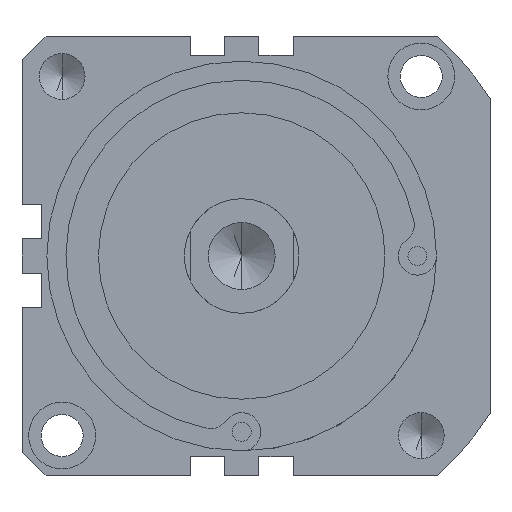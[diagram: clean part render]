
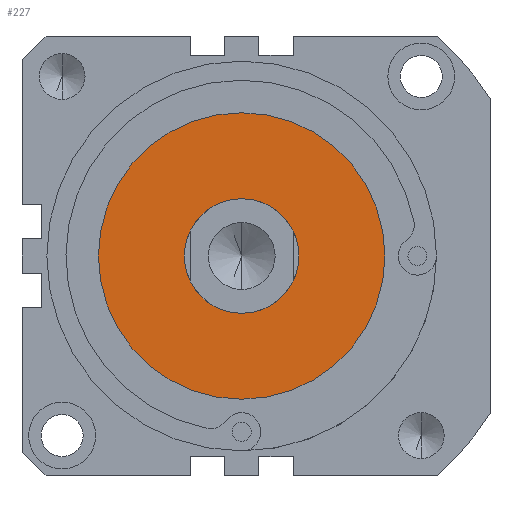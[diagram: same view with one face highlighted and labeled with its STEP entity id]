
A CAD part, front view. The second image highlights one B-rep face of the part: STEP entity #227.
In plain terms, the highlighted planar face has unit normal (0, -1, 0).
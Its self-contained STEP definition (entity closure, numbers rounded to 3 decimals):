
#32 = CARTESIAN_POINT ( 'NONE',  ( 0., -93., -37.5 ) ) ;
#60 = CARTESIAN_POINT ( 'NONE',  ( 0., -93., 0. ) ) ;
#165 = CARTESIAN_POINT ( 'NONE',  ( 0., -93., 0. ) ) ;
#177 = CARTESIAN_POINT ( 'NONE',  ( 0., -93., 15. ) ) ;
#227 = ADVANCED_FACE ( 'NONE', ( #819, #2029 ), #3943, .F. ) ;
#291 = ORIENTED_EDGE ( 'NONE', *, *, #3045, .F. ) ;
#329 = EDGE_CURVE ( 'NONE', #702, #2032, #2330, .T. ) ;
#366 = VERTEX_POINT ( 'NONE', #177 ) ;
#476 = DIRECTION ( 'NONE',  ( 0., 1., 0. ) ) ;
#478 = AXIS2_PLACEMENT_3D ( 'NONE', #165, #4081, #3738 ) ;
#486 = CARTESIAN_POINT ( 'NONE',  ( 0., -93., 0. ) ) ;
#609 = CARTESIAN_POINT ( 'NONE',  ( 0., -93., 0. ) ) ;
#620 = CIRCLE ( 'NONE', #1627, 37.5 ) ;
#702 = VERTEX_POINT ( 'NONE', #2364 ) ;
#819 = FACE_OUTER_BOUND ( 'NONE', #4220, .T. ) ;
#875 = CIRCLE ( 'NONE', #1533, 15. ) ;
#1427 = CIRCLE ( 'NONE', #3803, 15. ) ;
#1533 = AXIS2_PLACEMENT_3D ( 'NONE', #60, #3957, #2349 ) ;
#1552 = ORIENTED_EDGE ( 'NONE', *, *, #1598, .F. ) ;
#1598 = EDGE_CURVE ( 'NONE', #2052, #366, #875, .T. ) ;
#1627 = AXIS2_PLACEMENT_3D ( 'NONE', #486, #476, #1786 ) ;
#1645 = CARTESIAN_POINT ( 'NONE',  ( 0., -93., -15. ) ) ;
#1786 = DIRECTION ( 'NONE',  ( 0., 0., 1. ) ) ;
#2029 = FACE_BOUND ( 'NONE', #2823, .T. ) ;
#2032 = VERTEX_POINT ( 'NONE', #32 ) ;
#2052 = VERTEX_POINT ( 'NONE', #1645 ) ;
#2269 = DIRECTION ( 'NONE',  ( 0., 0., 1. ) ) ;
#2330 = CIRCLE ( 'NONE', #478, 37.5 ) ;
#2349 = DIRECTION ( 'NONE',  ( 0., 0., 1. ) ) ;
#2364 = CARTESIAN_POINT ( 'NONE',  ( 0., -93., 37.5 ) ) ;
#2702 = DIRECTION ( 'NONE',  ( 0., 1., 0. ) ) ;
#2798 = EDGE_CURVE ( 'NONE', #2032, #702, #620, .T. ) ;
#2823 = EDGE_LOOP ( 'NONE', ( #291, #1552 ) ) ;
#3010 = CARTESIAN_POINT ( 'NONE',  ( 0., -93., 0. ) ) ;
#3045 = EDGE_CURVE ( 'NONE', #366, #2052, #1427, .T. ) ;
#3687 = DIRECTION ( 'NONE',  ( 0., 0., 1. ) ) ;
#3738 = DIRECTION ( 'NONE',  ( 0., 0., 1. ) ) ;
#3740 = ORIENTED_EDGE ( 'NONE', *, *, #2798, .F. ) ;
#3748 = ORIENTED_EDGE ( 'NONE', *, *, #329, .F. ) ;
#3803 = AXIS2_PLACEMENT_3D ( 'NONE', #609, #4187, #2269 ) ;
#3877 = AXIS2_PLACEMENT_3D ( 'NONE', #3010, #2702, #3687 ) ;
#3943 = PLANE ( 'NONE',  #3877 ) ;
#3957 = DIRECTION ( 'NONE',  ( 0., -1., 0. ) ) ;
#4081 = DIRECTION ( 'NONE',  ( 0., 1., 0. ) ) ;
#4187 = DIRECTION ( 'NONE',  ( 0., -1., 0. ) ) ;
#4220 = EDGE_LOOP ( 'NONE', ( #3740, #3748 ) ) ;
